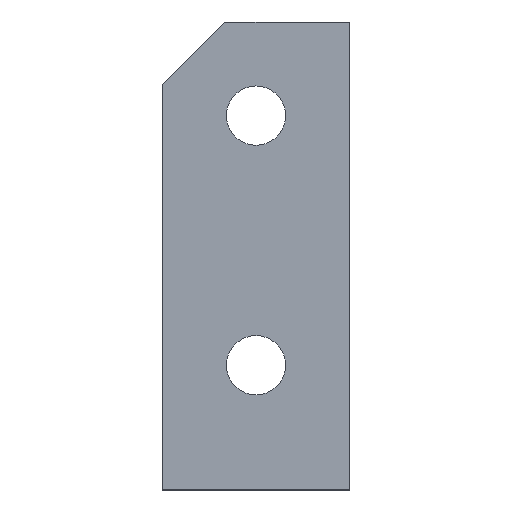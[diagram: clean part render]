
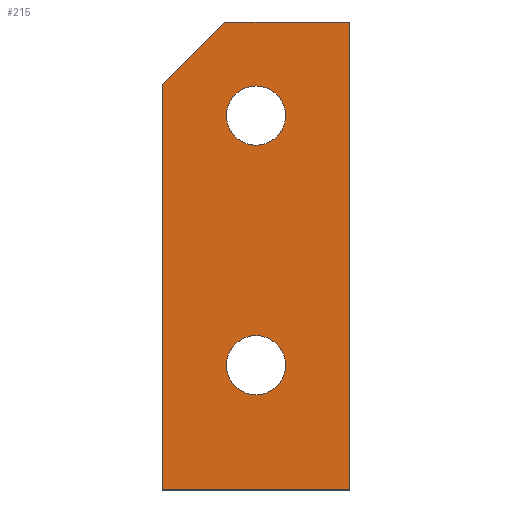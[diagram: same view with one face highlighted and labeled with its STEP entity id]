
A CAD part, top view. The second image highlights one B-rep face of the part: STEP entity #215.
In plain terms, the highlighted planar face has unit normal (0, 0, 1).
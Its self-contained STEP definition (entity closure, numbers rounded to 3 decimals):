
#55=FACE_BOUND('',#83,.T.);
#56=FACE_BOUND('',#84,.T.);
#64=PLANE('',#251);
#73=FACE_OUTER_BOUND('',#82,.T.);
#82=EDGE_LOOP('',(#192,#193,#194,#195,#196));
#83=EDGE_LOOP('',(#197));
#84=EDGE_LOOP('',(#198));
#92=LINE('',#339,#109);
#95=LINE('',#345,#112);
#98=LINE('',#351,#115);
#101=LINE('',#357,#118);
#104=LINE('',#361,#121);
#109=VECTOR('',#280,10.);
#112=VECTOR('',#285,10.);
#115=VECTOR('',#290,10.);
#118=VECTOR('',#295,10.);
#121=VECTOR('',#300,10.);
#122=CIRCLE('',#241,4.75);
#124=CIRCLE('',#244,4.75);
#129=VERTEX_POINT('',#321);
#131=VERTEX_POINT('',#327);
#135=VERTEX_POINT('',#336);
#136=VERTEX_POINT('',#338);
#138=VERTEX_POINT('',#344);
#140=VERTEX_POINT('',#350);
#142=VERTEX_POINT('',#356);
#143=EDGE_CURVE('',#129,#129,#122,.T.);
#146=EDGE_CURVE('',#131,#131,#124,.T.);
#151=EDGE_CURVE('',#136,#135,#92,.T.);
#154=EDGE_CURVE('',#138,#136,#95,.T.);
#157=EDGE_CURVE('',#140,#138,#98,.T.);
#160=EDGE_CURVE('',#142,#140,#101,.T.);
#163=EDGE_CURVE('',#135,#142,#104,.T.);
#192=ORIENTED_EDGE('',*,*,#163,.T.);
#193=ORIENTED_EDGE('',*,*,#160,.T.);
#194=ORIENTED_EDGE('',*,*,#157,.T.);
#195=ORIENTED_EDGE('',*,*,#154,.T.);
#196=ORIENTED_EDGE('',*,*,#151,.T.);
#197=ORIENTED_EDGE('',*,*,#146,.T.);
#198=ORIENTED_EDGE('',*,*,#143,.T.);
#215=ADVANCED_FACE('',(#73,#55,#56),#64,.T.);
#241=AXIS2_PLACEMENT_3D('',#322,#264,#265);
#244=AXIS2_PLACEMENT_3D('',#328,#271,#272);
#251=AXIS2_PLACEMENT_3D('',#362,#301,#302);
#264=DIRECTION('center_axis',(0.,0.,-1.));
#265=DIRECTION('ref_axis',(-1.,0.,0.));
#271=DIRECTION('center_axis',(0.,0.,-1.));
#272=DIRECTION('ref_axis',(-1.,0.,0.));
#280=DIRECTION('',(0.,1.,0.));
#285=DIRECTION('',(1.,0.,0.));
#290=DIRECTION('',(0.,-1.,0.));
#295=DIRECTION('',(-0.707,-0.707,0.));
#300=DIRECTION('',(-1.,0.,0.));
#301=DIRECTION('center_axis',(0.,0.,1.));
#302=DIRECTION('ref_axis',(1.,0.,0.));
#321=CARTESIAN_POINT('',(-51.65,29.093,0.25));
#322=CARTESIAN_POINT('Origin',(-56.4,29.093,0.25));
#327=CARTESIAN_POINT('',(-51.65,69.093,0.25));
#328=CARTESIAN_POINT('Origin',(-56.4,69.093,0.25));
#336=CARTESIAN_POINT('',(-41.4,84.093,0.25));
#338=CARTESIAN_POINT('',(-41.4,9.093,0.25));
#339=CARTESIAN_POINT('',(-41.4,9.093,0.25));
#344=CARTESIAN_POINT('',(-71.4,9.093,0.25));
#345=CARTESIAN_POINT('',(-71.4,9.093,0.25));
#350=CARTESIAN_POINT('',(-71.4,74.093,0.25));
#351=CARTESIAN_POINT('',(-71.4,74.093,0.25));
#356=CARTESIAN_POINT('',(-61.4,84.093,0.25));
#357=CARTESIAN_POINT('',(-61.4,84.093,0.25));
#361=CARTESIAN_POINT('',(-41.4,84.093,0.25));
#362=CARTESIAN_POINT('Origin',(-56.4,46.593,0.25));
